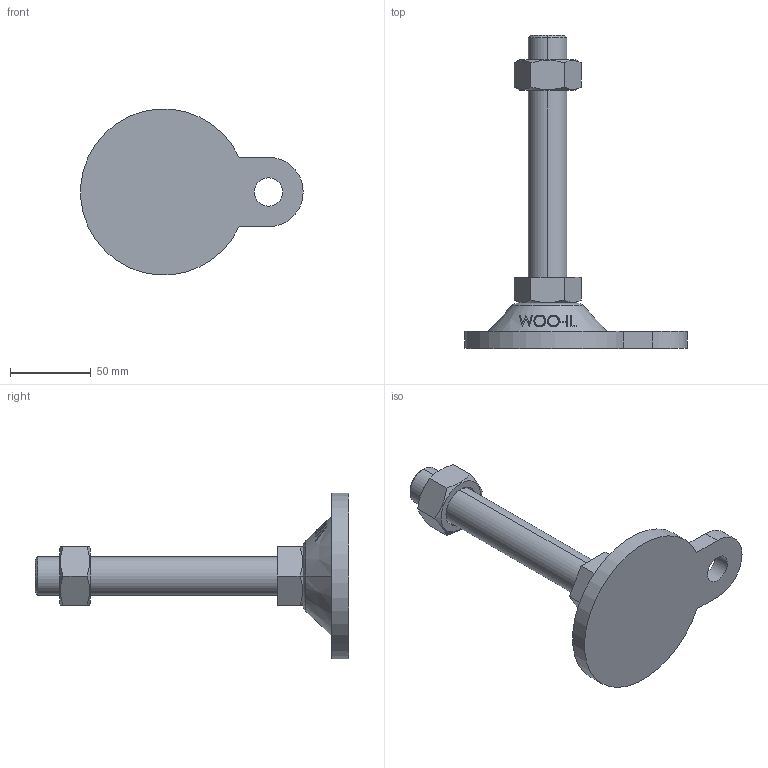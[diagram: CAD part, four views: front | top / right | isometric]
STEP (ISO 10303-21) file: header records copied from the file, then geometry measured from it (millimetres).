
FILE_DESCRIPTION (( 'STEP AP214' ), '1' );
FILE_NAME ('ARB103-M24-150.step', '2021-03-25T00:42:10', ( '' ), ( '' ), 'SwSTEP 2.0', 'SolidWorks 2019', '' );
FILE_SCHEMA (( 'AUTOMOTIVE_DESIGN' ));
Length unit declared in the file: millimetre
Products named in the file (2): ARB103-M24-150
Bounding box: 137.8 x 194 x 102.64 mm (x, y, z)
Volume: 244461.3 mm3; surface area: 45180.7 mm2
Topology: 3 solids, 3 shells, 97 faces, 233 edges, 152 vertices
Faces by surface type: plane 49, cone 22, bspline 16, cylinder 8, torus 2
Entity records: 4480 total; most frequent: CARTESIAN_POINT 2298, ORIENTED_EDGE 466, DIRECTION 375, EDGE_CURVE 233, VERTEX_POINT 152, AXIS2_PLACEMENT_3D 143, EDGE_LOOP 111, ADVANCED_FACE 97
